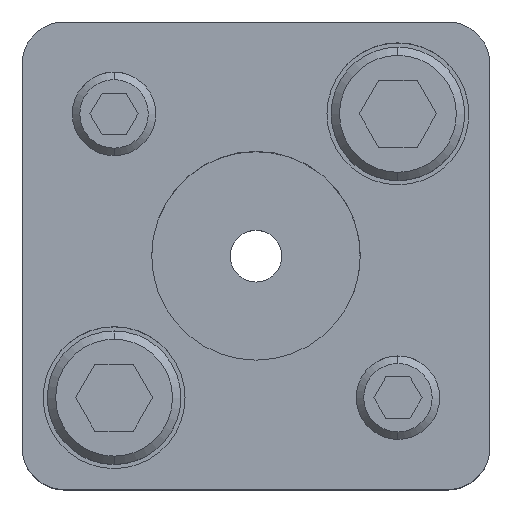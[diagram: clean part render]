
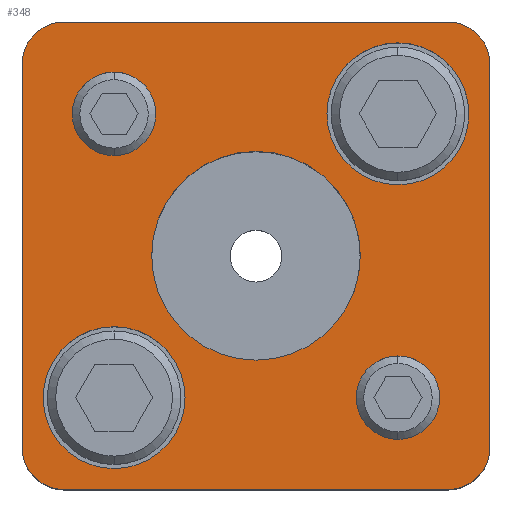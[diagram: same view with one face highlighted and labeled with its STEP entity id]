
A CAD part, top view. The second image highlights one B-rep face of the part: STEP entity #348.
In plain terms, the highlighted planar face has unit normal (0, 0, 1).
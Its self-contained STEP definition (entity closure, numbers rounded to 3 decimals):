
#173=PLANE('',#3001);
#248=FACE_BOUND('',#745,.T.);
#249=FACE_BOUND('',#746,.T.);
#250=FACE_BOUND('',#747,.T.);
#251=FACE_BOUND('',#748,.T.);
#252=FACE_BOUND('',#749,.T.);
#253=FACE_BOUND('',#750,.T.);
#348=ADVANCED_FACE('',(#248,#249,#250,#251,#252,#253),#173,.T.);
#745=EDGE_LOOP('',(#1600,#1601,#1602,#1603,#1604,#1605,#1606,#1607));
#746=EDGE_LOOP('',(#1608,#1609));
#747=EDGE_LOOP('',(#1610,#1611));
#748=EDGE_LOOP('',(#1612,#1613));
#749=EDGE_LOOP('',(#1614,#1615));
#750=EDGE_LOOP('',(#1616,#1617));
#935=LINE('',#4437,#1144);
#936=LINE('',#4441,#1145);
#937=LINE('',#4445,#1146);
#938=LINE('',#4449,#1147);
#1144=VECTOR('',#3566,1.);
#1145=VECTOR('',#3569,1.);
#1146=VECTOR('',#3572,1.);
#1147=VECTOR('',#3575,1.);
#1600=ORIENTED_EDGE('',*,*,#2460,.T.);
#1601=ORIENTED_EDGE('',*,*,#2461,.T.);
#1602=ORIENTED_EDGE('',*,*,#2462,.T.);
#1603=ORIENTED_EDGE('',*,*,#2463,.T.);
#1604=ORIENTED_EDGE('',*,*,#2464,.T.);
#1605=ORIENTED_EDGE('',*,*,#2465,.T.);
#1606=ORIENTED_EDGE('',*,*,#2466,.T.);
#1607=ORIENTED_EDGE('',*,*,#2467,.T.);
#1608=ORIENTED_EDGE('',*,*,#2468,.F.);
#1609=ORIENTED_EDGE('',*,*,#2469,.F.);
#1610=ORIENTED_EDGE('',*,*,#2470,.F.);
#1611=ORIENTED_EDGE('',*,*,#2471,.F.);
#1612=ORIENTED_EDGE('',*,*,#2446,.F.);
#1613=ORIENTED_EDGE('',*,*,#2442,.F.);
#1614=ORIENTED_EDGE('',*,*,#2440,.F.);
#1615=ORIENTED_EDGE('',*,*,#2436,.F.);
#1616=ORIENTED_EDGE('',*,*,#2472,.T.);
#1617=ORIENTED_EDGE('',*,*,#2473,.T.);
#2140=VERTEX_POINT('',#4385);
#2141=VERTEX_POINT('',#4386);
#2144=VERTEX_POINT('',#4398);
#2145=VERTEX_POINT('',#4399);
#2156=VERTEX_POINT('',#4435);
#2157=VERTEX_POINT('',#4436);
#2158=VERTEX_POINT('',#4438);
#2159=VERTEX_POINT('',#4440);
#2160=VERTEX_POINT('',#4442);
#2161=VERTEX_POINT('',#4444);
#2162=VERTEX_POINT('',#4446);
#2163=VERTEX_POINT('',#4448);
#2164=VERTEX_POINT('',#4451);
#2165=VERTEX_POINT('',#4452);
#2166=VERTEX_POINT('',#4455);
#2167=VERTEX_POINT('',#4456);
#2168=VERTEX_POINT('',#4459);
#2169=VERTEX_POINT('',#4460);
#2436=EDGE_CURVE('',#2140,#2141,#2741,.T.);
#2440=EDGE_CURVE('',#2141,#2140,#2743,.T.);
#2442=EDGE_CURVE('',#2144,#2145,#2745,.T.);
#2446=EDGE_CURVE('',#2145,#2144,#2747,.T.);
#2460=EDGE_CURVE('',#2156,#2157,#2757,.T.);
#2461=EDGE_CURVE('',#2157,#2158,#935,.T.);
#2462=EDGE_CURVE('',#2158,#2159,#2758,.T.);
#2463=EDGE_CURVE('',#2159,#2160,#936,.T.);
#2464=EDGE_CURVE('',#2160,#2161,#2759,.T.);
#2465=EDGE_CURVE('',#2161,#2162,#937,.T.);
#2466=EDGE_CURVE('',#2162,#2163,#2760,.T.);
#2467=EDGE_CURVE('',#2163,#2156,#938,.T.);
#2468=EDGE_CURVE('',#2164,#2165,#2761,.T.);
#2469=EDGE_CURVE('',#2165,#2164,#2762,.T.);
#2470=EDGE_CURVE('',#2166,#2167,#2763,.T.);
#2471=EDGE_CURVE('',#2167,#2166,#2764,.T.);
#2472=EDGE_CURVE('',#2168,#2169,#2765,.T.);
#2473=EDGE_CURVE('',#2169,#2168,#2766,.T.);
#2741=CIRCLE('',#2965,5.);
#2743=CIRCLE('',#2968,5.);
#2745=CIRCLE('',#2972,5.);
#2747=CIRCLE('',#2975,5.);
#2757=CIRCLE('',#2991,5.);
#2758=CIRCLE('',#2992,5.);
#2759=CIRCLE('',#2993,5.);
#2760=CIRCLE('',#2994,5.);
#2761=CIRCLE('',#2995,8.5);
#2762=CIRCLE('',#2996,8.5);
#2763=CIRCLE('',#2997,8.5);
#2764=CIRCLE('',#2998,8.5);
#2765=CIRCLE('',#2999,12.5);
#2766=CIRCLE('',#3000,12.5);
#2965=AXIS2_PLACEMENT_3D('',#4384,#3504,#3505);
#2968=AXIS2_PLACEMENT_3D('',#4393,#3512,#3513);
#2972=AXIS2_PLACEMENT_3D('',#4397,#3520,#3521);
#2975=AXIS2_PLACEMENT_3D('',#4406,#3528,#3529);
#2991=AXIS2_PLACEMENT_3D('',#4434,#3564,#3565);
#2992=AXIS2_PLACEMENT_3D('',#4439,#3567,#3568);
#2993=AXIS2_PLACEMENT_3D('',#4443,#3570,#3571);
#2994=AXIS2_PLACEMENT_3D('',#4447,#3573,#3574);
#2995=AXIS2_PLACEMENT_3D('',#4450,#3576,#3577);
#2996=AXIS2_PLACEMENT_3D('',#4453,#3578,#3579);
#2997=AXIS2_PLACEMENT_3D('',#4454,#3580,#3581);
#2998=AXIS2_PLACEMENT_3D('',#4457,#3582,#3583);
#2999=AXIS2_PLACEMENT_3D('',#4458,#3584,#3585);
#3000=AXIS2_PLACEMENT_3D('',#4461,#3586,#3587);
#3001=AXIS2_PLACEMENT_3D('',#4462,#3588,#3589);
#3504=DIRECTION('',(0.,0.,1.));
#3505=DIRECTION('',(-1.,0.,0.));
#3512=DIRECTION('',(0.,0.,1.));
#3513=DIRECTION('',(1.,0.,0.));
#3520=DIRECTION('',(0.,0.,1.));
#3521=DIRECTION('',(-1.,0.,0.));
#3528=DIRECTION('',(0.,0.,1.));
#3529=DIRECTION('',(1.,0.,0.));
#3564=DIRECTION('',(0.,0.,1.));
#3565=DIRECTION('',(-0.707,0.707,0.));
#3566=DIRECTION('',(0.,1.,0.));
#3567=DIRECTION('',(0.,0.,1.));
#3568=DIRECTION('',(-0.707,-0.707,0.));
#3569=DIRECTION('',(-1.,0.,0.));
#3570=DIRECTION('',(0.,0.,1.));
#3571=DIRECTION('',(0.707,-0.707,0.));
#3572=DIRECTION('',(0.,-1.,0.));
#3573=DIRECTION('',(0.,0.,1.));
#3574=DIRECTION('',(0.707,0.707,0.));
#3575=DIRECTION('',(1.,0.,0.));
#3576=DIRECTION('',(0.,0.,1.));
#3577=DIRECTION('',(1.,0.,0.));
#3578=DIRECTION('',(0.,0.,1.));
#3579=DIRECTION('',(-1.,0.,0.));
#3580=DIRECTION('',(0.,0.,1.));
#3581=DIRECTION('',(1.,0.,0.));
#3582=DIRECTION('',(0.,0.,1.));
#3583=DIRECTION('',(-1.,0.,0.));
#3584=DIRECTION('',(0.,0.,-1.));
#3585=DIRECTION('',(-1.,0.,0.));
#3586=DIRECTION('',(0.,0.,-1.));
#3587=DIRECTION('',(1.,0.,0.));
#3588=DIRECTION('',(0.,0.,1.));
#3589=DIRECTION('',(-1.,0.,0.));
#4384=CARTESIAN_POINT('',(17.,-17.,35.));
#4385=CARTESIAN_POINT('',(17.,-22.,35.));
#4386=CARTESIAN_POINT('',(17.,-12.,35.));
#4393=CARTESIAN_POINT('',(17.,-17.,35.));
#4397=CARTESIAN_POINT('',(-17.,17.,35.));
#4398=CARTESIAN_POINT('',(-17.,12.,35.));
#4399=CARTESIAN_POINT('',(-17.,22.,35.));
#4406=CARTESIAN_POINT('',(-17.,17.,35.));
#4434=CARTESIAN_POINT('',(23.,-23.,35.));
#4435=CARTESIAN_POINT('',(23.,-28.,35.));
#4436=CARTESIAN_POINT('',(28.,-23.,35.));
#4437=CARTESIAN_POINT('',(28.,23.,35.));
#4438=CARTESIAN_POINT('',(28.,23.,35.));
#4439=CARTESIAN_POINT('',(23.,23.,35.));
#4440=CARTESIAN_POINT('',(23.,28.,35.));
#4441=CARTESIAN_POINT('',(-23.,28.,35.));
#4442=CARTESIAN_POINT('',(-23.,28.,35.));
#4443=CARTESIAN_POINT('',(-23.,23.,35.));
#4444=CARTESIAN_POINT('',(-28.,23.,35.));
#4445=CARTESIAN_POINT('',(-28.,23.,35.));
#4446=CARTESIAN_POINT('',(-28.,-23.,35.));
#4447=CARTESIAN_POINT('',(-23.,-23.,35.));
#4448=CARTESIAN_POINT('',(-23.,-28.,35.));
#4449=CARTESIAN_POINT('',(-23.,-28.,35.));
#4450=CARTESIAN_POINT('',(17.,17.,35.));
#4451=CARTESIAN_POINT('',(17.,25.5,35.));
#4452=CARTESIAN_POINT('',(17.,8.5,35.));
#4453=CARTESIAN_POINT('',(17.,17.,35.));
#4454=CARTESIAN_POINT('',(-17.,-17.,35.));
#4455=CARTESIAN_POINT('',(-17.,-8.5,35.));
#4456=CARTESIAN_POINT('',(-17.,-25.5,35.));
#4457=CARTESIAN_POINT('',(-17.,-17.,35.));
#4458=CARTESIAN_POINT('',(0.,0.,35.));
#4459=CARTESIAN_POINT('',(0.,12.5,35.));
#4460=CARTESIAN_POINT('',(0.,-12.5,35.));
#4461=CARTESIAN_POINT('',(0.,0.,35.));
#4462=CARTESIAN_POINT('',(23.,-28.,35.));
